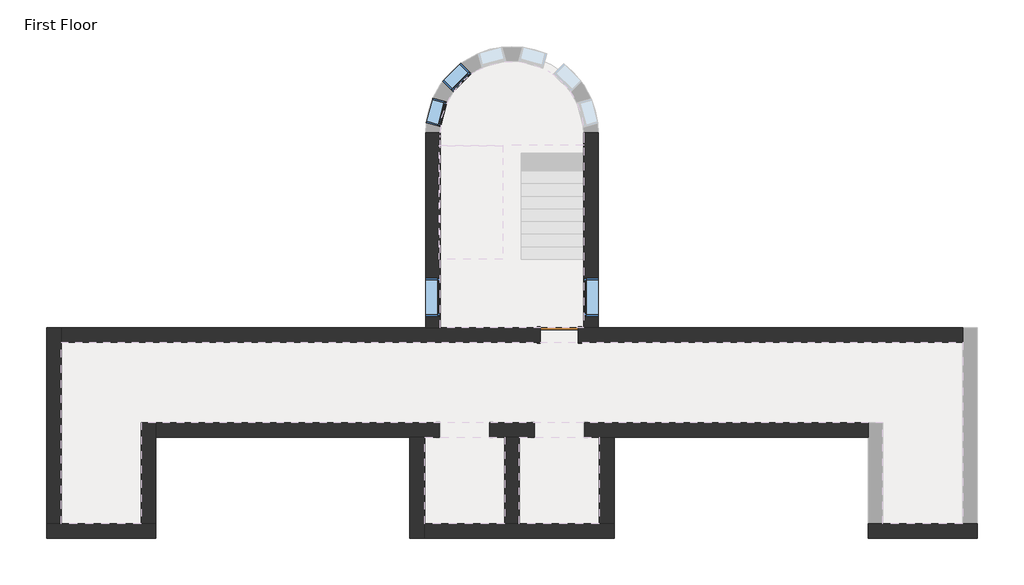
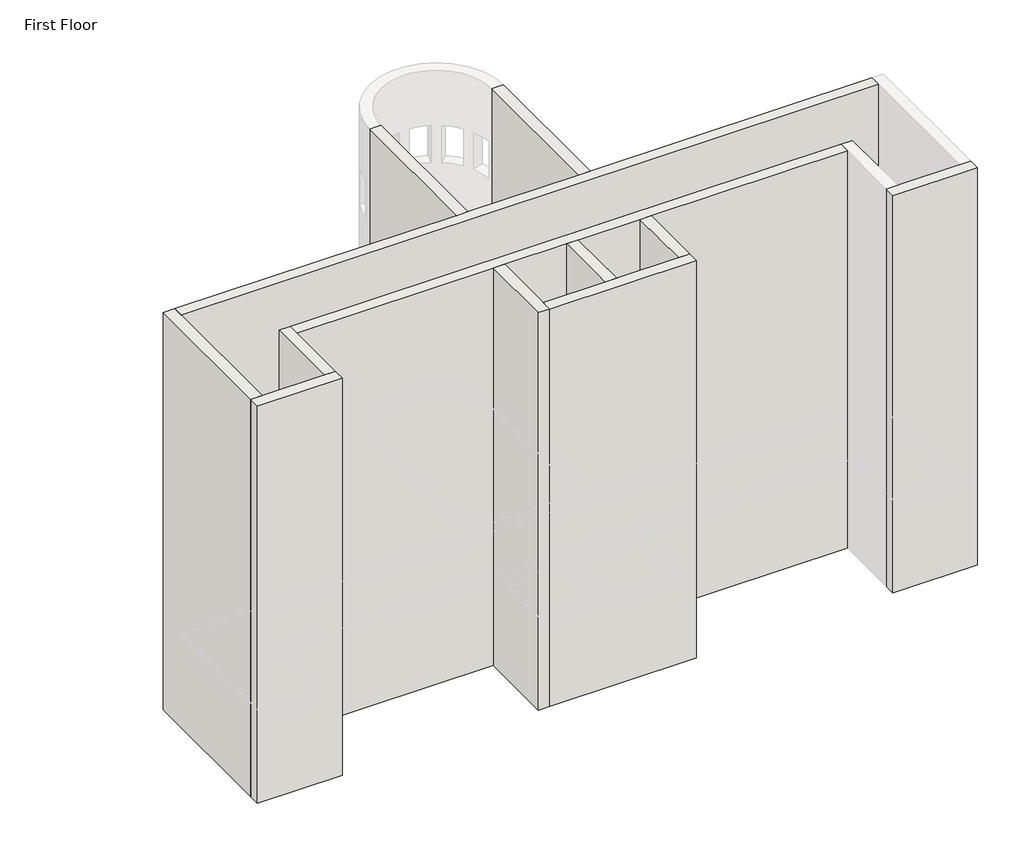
# One storey, part 1 of 3: 12 walls, 4 windows, 1 door.
"""IFC4 building model written with IfcOpenShell, lengths in millimetres."""

import ifcopenshell
import ifcopenshell.guid

model = None  # the IFC model being written
_history = None  # IfcOwnerHistory: only IFC2X3 demands one
_inside = {}  # id of a spatial element -> (the spatial element, [elements in it])
_under = {}  # id of a project, library or spatial element -> (it, [spatial elements below it])
_declared = {}  # id of a project -> (the project, [libraries it declares])
_typed = {}  # id of a type object -> (the type object, [elements of that type])
_made_of = {}  # id of a material, layer set ... -> (it, [elements and type objects made of it])


def new_model(schema):
    """Start an empty IFC model of exactly this schema.

    Asked for "IFC4X3", IfcOpenShell would pick the latest addendum, in which some entities
    have other attributes; the version numbers below select the first issue.
    IFC2X3 requires an IfcOwnerHistory on every rooted entity: one is made here for all.
    """
    global model, _history
    if schema == "IFC4X3":
        model = ifcopenshell.file(schema_version=(4, 3, 0, 0))
    else:
        model = ifcopenshell.file(schema=schema)
    _inside.clear()
    _under.clear()
    _declared.clear()
    _typed.clear()
    _made_of.clear()
    _history = None
    if model.schema == "IFC2X3":
        org = make("IfcOrganization", Name="unknown")
        user = make(
            "IfcPersonAndOrganization",
            ThePerson=make("IfcPerson", FamilyName="unknown"),
            TheOrganization=org,
        )
        app = make(
            "IfcApplication",
            ApplicationDeveloper=org,
            Version="unknown",
            ApplicationFullName="unknown",
            ApplicationIdentifier="unknown",
        )
        _history = make(
            "IfcOwnerHistory",
            OwningUser=user,
            OwningApplication=app,
            ChangeAction="ADDED",
            CreationDate=0,
        )
    return model


def make(cls, **values):
    """One entity of the class cls with the attributes given. An attribute that is None is left unset."""
    return model.create_entity(
        cls, **{name: value for name, value in values.items() if value is not None}
    )


def rooted(cls, **values):
    """An entity with a GlobalId (a new one), such as an element, a storey or a relation."""
    return make(cls, GlobalId=ifcopenshell.guid.new(), OwnerHistory=_history, **values)


def si_unit(unit_type, name, prefix=None):
    """IfcSIUnit, for example si_unit("LENGTHUNIT", "METRE", prefix="MILLI")."""
    return make("IfcSIUnit", UnitType=unit_type, Prefix=prefix, Name=name)


def assignment(units):
    """IfcUnitAssignment: the units of a project."""
    return None if units is None else make("IfcUnitAssignment", Units=units)


def point(xyz):
    """IfcCartesianPoint."""
    return None if xyz is None else make("IfcCartesianPoint", Coordinates=xyz)


def direction(xyz):
    """IfcDirection."""
    return None if xyz is None else make("IfcDirection", DirectionRatios=xyz)


def frame(location, z_axis=None, x_axis=None):
    """IfcAxis2Placement3D, a coordinate frame: its origin and axes. An axis left out is left unset."""
    return make(
        "IfcAxis2Placement3D",
        Location=point(location),
        Axis=direction(z_axis),
        RefDirection=direction(x_axis),
    )


def origin():
    """The frame at (0, 0, 0) with its axes left unset."""
    return frame((0.0, 0.0, 0.0))


def origin_with_axes():
    """The frame at (0, 0, 0) with the z axis (0, 0, 1) and the x axis (1, 0, 0) written out."""
    return frame((0.0, 0.0, 0.0), z_axis=(0.0, 0.0, 1.0), x_axis=(1.0, 0.0, 0.0))


def place(relative_to, where):
    """IfcLocalPlacement: puts the frame where relative to a parent placement (None: the world)."""
    return make(
        "IfcLocalPlacement", PlacementRelTo=relative_to, RelativePlacement=where
    )


def context(
    kind, dimensions, precision=None, world=None, true_north=None, identifier=None
):
    """IfcGeometricRepresentationContext, for example the 3D "Model" context."""
    return make(
        "IfcGeometricRepresentationContext",
        ContextIdentifier=identifier,
        ContextType=kind,
        CoordinateSpaceDimension=dimensions,
        Precision=precision,
        WorldCoordinateSystem=world,
        TrueNorth=true_north,
    )


def project(units=None, contexts=None):
    """IfcProject with its units and contexts."""
    return rooted(
        "IfcProject",
        Name="project",
        RepresentationContexts=contexts,
        UnitsInContext=assignment(units),
    )


def spatial(cls, under=None, at=None, **own):
    """A site, building, storey or space (cls), placed at a placement, below another one or the project."""
    s = rooted(cls, ObjectPlacement=at, **own)
    if under is not None:
        _under.setdefault(under.id(), (under, []))[1].append(s)
    return s


def polyline(points):
    """IfcPolyline through the points."""
    return make("IfcPolyline", Points=[point(p) for p in points])


def outline(outer, holes=None, kind="AREA"):
    """IfcArbitraryClosedProfileDef: a profile drawn as a closed curve; with holes, ...WithVoids."""
    if holes is None:
        return make("IfcArbitraryClosedProfileDef", ProfileType=kind, OuterCurve=outer)
    return make(
        "IfcArbitraryProfileDefWithVoids",
        ProfileType=kind,
        OuterCurve=outer,
        InnerCurves=holes,
    )


def extrude(swept, where, along, depth):
    """IfcExtrudedAreaSolid: the profile swept, set in the frame where, extruded along a direction by depth."""
    return make(
        "IfcExtrudedAreaSolid",
        SweptArea=swept,
        Position=where,
        ExtrudedDirection=direction(along),
        Depth=depth,
    )


def faces_of(points, faces, orient=None, outer=None):
    """IfcFace entities. A face is a list of loops; a loop is a list of indices into points, from 0.

    orient and outer hold one flag for each loop. By default every Orientation is true, the
    first loop of a face is its IfcFaceOuterBound and the others are IfcFaceBound.
    """
    made = []
    for i, loops in enumerate(faces):
        bounds = []
        for j, loop in enumerate(loops):
            is_outer = j == 0 if outer is None else outer[i][j]
            bounds.append(
                make(
                    "IfcFaceOuterBound" if is_outer else "IfcFaceBound",
                    Bound=make("IfcPolyLoop", Polygon=[points[k] for k in loop]),
                    Orientation=True if orient is None else orient[i][j],
                )
            )
        made.append(make("IfcFace", Bounds=bounds))
    return made


def faceted_brep(points, faces, orient=None, outer=None, voids=None):
    """IfcFacetedBrep: a solid bounded by flat faces; with voids (closed shells), ...WithVoids."""
    shared = [point(p) for p in points]
    hull = make("IfcClosedShell", CfsFaces=faces_of(shared, faces, orient, outer))
    if voids is None:
        return make("IfcFacetedBrep", Outer=hull)
    return make(
        "IfcFacetedBrepWithVoids",
        Outer=hull,
        Voids=[
            make(cls, CfsFaces=faces_of(shared, fs, o, b)) for cls, fs, o, b in voids
        ],
    )


def shape(context_of_items, identifier, shape_type, items):
    """IfcShapeRepresentation: the items that make up one representation, for example the "Body"."""
    return make(
        "IfcShapeRepresentation",
        ContextOfItems=context_of_items,
        RepresentationIdentifier=identifier,
        RepresentationType=shape_type,
        Items=items,
    )


def source(mapping_origin, context_of_items, identifier, shape_type, items):
    """IfcRepresentationMap: a shape defined once, which mapped items show again and again."""
    return make(
        "IfcRepresentationMap",
        MappingOrigin=mapping_origin,
        MappedRepresentation=shape(context_of_items, identifier, shape_type, items),
    )


def transform(
    local_origin,
    x_axis=None,
    y_axis=None,
    z_axis=None,
    scale=None,
    scale2=None,
    scale3=None,
    uniform=True,
):
    """IfcCartesianTransformationOperator3D, or its non-uniform kind. x_axis, y_axis, z_axis: its Axis1, 2, 3."""
    if uniform:
        return make(
            "IfcCartesianTransformationOperator3D",
            Axis1=direction(x_axis),
            Axis2=direction(y_axis),
            LocalOrigin=point(local_origin),
            Scale=scale,
            Axis3=direction(z_axis),
        )
    return make(
        "IfcCartesianTransformationOperator3DnonUniform",
        Axis1=direction(x_axis),
        Axis2=direction(y_axis),
        LocalOrigin=point(local_origin),
        Scale=scale,
        Axis3=direction(z_axis),
        Scale2=scale2,
        Scale3=scale3,
    )


def mapped(mapping_source, mapping_target):
    """IfcMappedItem: shows the shape of a source again, moved by a transform."""
    return make(
        "IfcMappedItem", MappingSource=mapping_source, MappingTarget=mapping_target
    )


def made_of(thing, what):
    """Note that an element or type object is made of a material, layer set ...; save() writes the relation."""
    if what is not None:
        _made_of.setdefault(what.id(), (what, []))[1].append(thing)
    return thing


def element(
    cls,
    number,
    at=None,
    inside=None,
    cuts=None,
    type_object=None,
    material=None,
    context=None,
    identifier="Body",
    shape_type=None,
    held_by="IfcProductDefinitionShape",
    body=None,
    shapes=None,
    **own,
):
    """One element of the class cls, such as IfcWall. Its Tag is "e" and its number.

    at: its placement. inside: the storey or other place that contains it. cuts: it is an
    opening in that element (IfcRelVoidsElement). A single representation is given by context,
    identifier, shape_type and body (its items); several are given by shapes. held_by: the class
    of the entity that holds the representations. save() writes the other relations.
    """
    e = rooted(cls, Tag="e%d" % number, ObjectPlacement=at, **own)
    if body is not None:
        shapes = [shape(context, identifier, shape_type, body)]
    if shapes is not None:
        e.Representation = make(held_by, Representations=shapes)
    if inside is not None:
        _inside.setdefault(inside.id(), (inside, []))[1].append(e)
    if cuts is not None:
        rooted(
            "IfcRelVoidsElement", RelatingBuildingElement=cuts, RelatedOpeningElement=e
        )
    if type_object is not None:
        _typed.setdefault(type_object.id(), (type_object, []))[1].append(e)
    return made_of(e, material)


def aggregate(whole, parts):
    """IfcRelAggregates: a whole, such as a stair, and the parts it consists of."""
    return rooted("IfcRelAggregates", RelatingObject=whole, RelatedObjects=parts)


def save(model, path):
    """Write the relations noted so far, then the file.

    IfcRelAggregates (storeys below a building ...), IfcRelContainedInSpatialStructure (elements
    in a storey), IfcRelDefinesByType, IfcRelAssociatesMaterial and IfcRelDeclares: one each for
    every whole, place, type object, material and project.
    """
    for whole, parts in _under.values():
        aggregate(whole, parts)
    for where, things in _inside.values():
        rooted(
            "IfcRelContainedInSpatialStructure",
            RelatedElements=things,
            RelatingStructure=where,
        )
    for kind, things in _typed.values():
        rooted("IfcRelDefinesByType", RelatedObjects=things, RelatingType=kind)
    for what, things in _made_of.values():
        rooted("IfcRelAssociatesMaterial", RelatedObjects=things, RelatingMaterial=what)
    for by, libraries in _declared.values():
        rooted("IfcRelDeclares", RelatingContext=by, RelatedDefinitions=libraries)
    model.write(path)


def door_632be17d(model_context):
    return source(origin(), model_context, "Body", "SweptSolid", [
        extrude(outline(polyline([(2209.8, -533.4), (0.0, -533.4), (0.0, -457.2), (2133.6, -457.2), (2133.6, 457.2), (0.0, 457.2), (0.0, 533.4), (2209.8, 533.4), (2209.8, -533.4)])), frame((0.0, 176.2125, 0.0), z_axis=(0.0, 1.0, 0.0), x_axis=(0.0, 0.0, 1.0)), (0.0, 0.0, 1.0), 25.4),
        extrude(outline(polyline([(2209.8, 533.4), (2209.8, -533.4), (0.0, -533.4), (0.0, -457.2), (2133.6, -457.2), (2133.6, 457.2), (0.0, 457.2), (0.0, 533.4), (2209.8, 533.4)])), frame((0.0, -201.6125, 0.0), z_axis=(0.0, 1.0, 0.0), x_axis=(0.0, 0.0, 1.0)), (0.0, 0.0, 1.0), 25.4),
        extrude(outline(polyline([(457.2, 125.4125), (-457.2, 125.4125), (-457.2, 176.2125), (457.2, 176.2125), (457.2, 125.4125)])), origin_with_axes(), (0.0, 0.0, 1.0), 2133.6),
    ])


def window_60baf983(model_context):
    return source(origin(), model_context, "Body", "SweptSolid", [
        extrude(outline(polyline([(203.2, 128.5875), (-279.4, 128.5875), (-279.4, 141.2875), (203.2, 141.2875), (203.2, 128.5875)])), frame((0.0, 0.0, 977.9), z_axis=(0.0, 0.0, 1.0), x_axis=(1.0, 0.0, 0.0)), (0.0, 0.0, 1.0), 1092.2),
        extrude(outline(polyline([(2114.55, -323.85), (933.45, -323.85), (933.45, 247.65), (2114.55, 247.65), (2114.55, -323.85)]), holes=[polyline([(2070.1, -279.4), (2070.1, 203.2), (977.9, 203.2), (977.9, -279.4), (2070.1, -279.4)])]), frame((0.0, 112.7125, 0.0), z_axis=(0.0, 1.0, 0.0), x_axis=(0.0, 0.0, 1.0)), (0.0, 0.0, 1.0), 44.45),
        extrude(outline(polyline([(2133.6, -342.9), (914.4, -342.9), (914.4, 266.7), (2133.6, 266.7), (2133.6, -342.9)]), holes=[polyline([(2101.85, -311.15), (2101.85, 234.95), (946.15, 234.95), (946.15, -311.15), (2101.85, -311.15)])]), frame((0.0, -176.2125, 0.0), z_axis=(0.0, 1.0, 0.0), x_axis=(0.0, 0.0, 1.0)), (0.0, 0.0, 1.0), 288.925),
        extrude(outline(polyline([(2133.6, 266.7), (2133.6, -342.9), (914.4, -342.9), (914.4, 266.7), (2133.6, 266.7)]), holes=[polyline([(2114.55, 247.65), (933.45, 247.65), (933.45, -323.85), (2114.55, -323.85), (2114.55, 247.65)])]), frame((0.0, 112.7125, 0.0), z_axis=(0.0, 1.0, 0.0), x_axis=(0.0, 0.0, 1.0)), (0.0, 0.0, 1.0), 63.5),
    ])


def window_15c49d37(model_context):
    return source(origin(), model_context, "Body", "SweptSolid", [
        extrude(outline(polyline([(355.6, 128.5875), (-431.8, 128.5875), (-431.8, 141.2875), (355.6, 141.2875), (355.6, 128.5875)])), frame((0.0, 0.0, 977.9), z_axis=(0.0, 0.0, 1.0), x_axis=(1.0, 0.0, 0.0)), (0.0, 0.0, 1.0), 1092.2),
        extrude(outline(polyline([(2114.55, -476.25), (933.45, -476.25), (933.45, 400.05), (2114.55, 400.05), (2114.55, -476.25)]), holes=[polyline([(2070.1, -431.8), (2070.1, 355.6), (977.9, 355.6), (977.9, -431.8), (2070.1, -431.8)])]), frame((0.0, 112.7125, 0.0), z_axis=(0.0, 1.0, 0.0), x_axis=(0.0, 0.0, 1.0)), (0.0, 0.0, 1.0), 44.45),
        extrude(outline(polyline([(2133.6, -495.3), (914.4, -495.3), (914.4, 419.1), (2133.6, 419.1), (2133.6, -495.3)]), holes=[polyline([(2101.85, -463.55), (2101.85, 387.35), (946.15, 387.35), (946.15, -463.55), (2101.85, -463.55)])]), frame((0.0, -176.2125, 0.0), z_axis=(0.0, 1.0, 0.0), x_axis=(0.0, 0.0, 1.0)), (0.0, 0.0, 1.0), 288.925),
        extrude(outline(polyline([(2133.6, 419.1), (2133.6, -495.3), (914.4, -495.3), (914.4, 419.1), (2133.6, 419.1)]), holes=[polyline([(2114.55, 400.05), (933.45, 400.05), (933.45, -476.25), (2114.55, -476.25), (2114.55, 400.05)])]), frame((0.0, 112.7125, 0.0), z_axis=(0.0, 1.0, 0.0), x_axis=(0.0, 0.0, 1.0)), (0.0, 0.0, 1.0), 63.5),
    ])


model = new_model("IFC4")

# Units and contexts
model_context = context("Model", 3, world=origin())
ifc_project = project(units=[si_unit("LENGTHUNIT", "METRE", prefix="MILLI")], contexts=[model_context])

# Site, building, storey
site = spatial("IfcSite", under=ifc_project)
building = spatial("IfcBuilding", under=site)
storey = spatial("IfcBuildingStorey", under=building, Name="First Floor", Elevation=0.0)

# Door
placement = place(None, origin())
door_shape = door_632be17d(model_context)
element("IfcDoor", 1, ObjectType="Single-Flush : 36\" x 84\"", at=placement, inside=storey, context=model_context, shape_type="MappedRepresentation", body=[
    mapped(door_shape, transform((-5102.6149687, 4715.9758812, 0.0), x_axis=(1.0, 0.0, 0.0), y_axis=(0.0, 1.0, 0.0), z_axis=(0.0, 0.0, 1.0))),
])

# Walls
element("IfcWall", 2, ObjectType="Exterior - Brick on Mtl. Stud", at=placement, inside=storey, context=model_context, shape_type="Brep", body=[
    faceted_brep([(-8707.8274687, 2253.7633812, 0.0), (-8707.8274687, -184.6366188, 0.0), (-8707.8274687, -184.6366188, 13106.4), (-8707.8274687, 2253.7633812, 13106.4), (-8355.4024687, 2253.7633812, 0.0), (-8355.4024687, 2253.7633812, 13106.4), (-8355.4024687, 167.7883812, 13106.4), (-8355.4024687, -184.6366188, 13106.4), (-8355.4024687, -184.6366188, 0.0), (-8355.4024687, 167.7883812, 0.0)], [[[0, 1, 2, 3]], [[4, 5, 6, 7, 8, 9]], [[1, 0, 4, 9, 8]], [[3, 2, 7, 6, 5]], [[2, 1, 8, 7]], [[0, 3, 5, 4]]]),
])
element("IfcWall", 3, ObjectType="Exterior - Brick on Mtl. Stud", at=placement, inside=storey, context=model_context, shape_type="Brep", body=[
    faceted_brep([(-8355.4024687, -184.6366188, 0.0), (-3783.4024687, -184.6366188, 0.0), (-3783.4024687, -184.6366188, 13106.4), (-8355.4024687, -184.6366188, 13106.4), (-8355.4024687, 167.7883812, 0.0), (-8355.4024687, 167.7883812, 13106.4), (-6421.8274687, 167.7883812, 13106.4), (-6069.4024687, 167.7883812, 13106.4), (-4135.8274687, 167.7883812, 13106.4), (-3783.4024687, 167.7883812, 13106.4), (-3783.4024687, 167.7883812, 0.0), (-4135.8274687, 167.7883812, 0.0), (-6069.4024687, 167.7883812, 0.0), (-6421.8274687, 167.7883812, 0.0)], [[[0, 1, 2, 3]], [[4, 5, 6, 7, 8, 9, 10, 11, 12, 13]], [[1, 0, 4, 13, 12, 11, 10]], [[3, 2, 9, 8, 7, 6, 5]], [[2, 1, 10, 9]], [[0, 3, 5, 4]]]),
])
element("IfcWall", 4, ObjectType="Exterior - Brick on Mtl. Stud", at=placement, inside=storey, context=model_context, shape_type="SweptSolid", body=[
    extrude(outline(polyline([(-3783.4024687, 2253.7633812), (-3783.4024687, 167.7883812), (-4135.8274687, 167.7883812), (-4135.8274687, 2253.7633812), (-3783.4024687, 2253.7633812)])), origin_with_axes(), (0.0, 0.0, 1.0), 13106.4),
])
element("IfcWall", 5, ObjectType="Exterior - Brick on Mtl. Stud", at=placement, inside=storey, context=model_context, shape_type="Brep", body=[
    faceted_brep([(-14832.4024687, 2606.1883812, 0.0), (-7998.2149687, 2606.1883812, 0.0), (-7998.2149687, 2253.7633812, 0.0), (-8355.4024687, 2253.7633812, 0.0), (-8707.8274687, 2253.7633812, 0.0), (-14832.4024687, 2253.7633812, 0.0), (-6779.0149687, 2606.1883812, 0.0), (-5712.2149687, 2606.1883812, 0.0), (-5712.2149687, 2253.7633812, 0.0), (-6069.4024687, 2253.7633812, 0.0), (-6421.8274687, 2253.7633812, 0.0), (-6779.0149687, 2253.7633812, 0.0), (-4493.0149687, 2606.1883812, 0.0), (2341.1725313, 2606.1883812, 0.0), (2341.1725313, 2253.7633812, 0.0), (-3783.4024687, 2253.7633812, 0.0), (-4135.8274687, 2253.7633812, 0.0), (-4493.0149687, 2253.7633812, 0.0), (-14832.4024687, 2253.7633812, 13106.4), (-8707.8274687, 2253.7633812, 13106.4), (-8355.4024687, 2253.7633812, 13106.4), (-6421.8274687, 2253.7633812, 13106.4), (-6069.4024687, 2253.7633812, 13106.4), (-4135.8274687, 2253.7633812, 13106.4), (-3783.4024687, 2253.7633812, 13106.4), (2341.1725313, 2253.7633812, 13106.4), (2341.1725313, 2606.1883812, 13106.4), (-14832.4024687, 2606.1883812, 13106.4), (-5712.2149687, 2253.7633812, 2133.6), (-4493.0149687, 2253.7633812, 2133.6), (-7998.2149687, 2253.7633812, 2133.6), (-6779.0149687, 2253.7633812, 2133.6), (-4493.0149687, 2253.7633812, 8229.6), (-4493.0149687, 2253.7633812, 6096.0), (-5712.2149687, 2253.7633812, 6096.0), (-5712.2149687, 2253.7633812, 8229.6), (-6779.0149687, 2253.7633812, 8229.6), (-6779.0149687, 2253.7633812, 6096.0), (-7998.2149687, 2253.7633812, 6096.0), (-7998.2149687, 2253.7633812, 8229.6), (-4493.0149687, 2253.7633812, 5181.6), (-4493.0149687, 2253.7633812, 3048.0), (-5712.2149687, 2253.7633812, 3048.0), (-5712.2149687, 2253.7633812, 5181.6), (-6779.0149687, 2253.7633812, 5181.6), (-6779.0149687, 2253.7633812, 3048.0), (-7998.2149687, 2253.7633812, 3048.0), (-7998.2149687, 2253.7633812, 5181.6), (-4493.0149687, 2253.7633812, 11277.6), (-4493.0149687, 2253.7633812, 9144.0), (-5712.2149687, 2253.7633812, 9144.0), (-5712.2149687, 2253.7633812, 11277.6), (-6779.0149687, 2253.7633812, 11277.6), (-6779.0149687, 2253.7633812, 9144.0), (-7998.2149687, 2253.7633812, 9144.0), (-7998.2149687, 2253.7633812, 11277.6), (-5712.2149687, 2606.1883812, 2133.6), (-6779.0149687, 2606.1883812, 2133.6), (-7998.2149687, 2606.1883812, 2133.6), (-4493.0149687, 2606.1883812, 2133.6), (-4493.0149687, 2606.1883812, 8229.6), (-5712.2149687, 2606.1883812, 8229.6), (-5712.2149687, 2606.1883812, 6096.0), (-4493.0149687, 2606.1883812, 6096.0), (-6779.0149687, 2606.1883812, 8229.6), (-7998.2149687, 2606.1883812, 8229.6), (-7998.2149687, 2606.1883812, 6096.0), (-6779.0149687, 2606.1883812, 6096.0), (-4493.0149687, 2606.1883812, 5181.6), (-5712.2149687, 2606.1883812, 5181.6), (-5712.2149687, 2606.1883812, 3048.0), (-4493.0149687, 2606.1883812, 3048.0), (-6779.0149687, 2606.1883812, 5181.6), (-7998.2149687, 2606.1883812, 5181.6), (-7998.2149687, 2606.1883812, 3048.0), (-6779.0149687, 2606.1883812, 3048.0), (-4493.0149687, 2606.1883812, 11277.6), (-5712.2149687, 2606.1883812, 11277.6), (-5712.2149687, 2606.1883812, 9144.0), (-4493.0149687, 2606.1883812, 9144.0), (-6779.0149687, 2606.1883812, 11277.6), (-7998.2149687, 2606.1883812, 11277.6), (-7998.2149687, 2606.1883812, 9144.0), (-6779.0149687, 2606.1883812, 9144.0)], [[[0, 1, 2, 3, 4, 5]], [[6, 7, 8, 9, 10, 11]], [[12, 13, 14, 15, 16, 17]], [[18, 19, 20, 21, 22, 23, 24, 25, 26, 27]], [[11, 10, 9, 8, 28, 29, 17, 16, 15, 14, 25, 24, 23, 22, 21, 20, 19, 18, 5, 4, 3, 2, 30, 31], [32, 33, 34, 35], [36, 37, 38, 39], [40, 41, 42, 43], [44, 45, 46, 47], [48, 49, 50, 51], [52, 53, 54, 55]], [[56, 7, 6, 57, 58, 1, 0, 27, 26, 13, 12, 59], [60, 61, 62, 63], [64, 65, 66, 67], [68, 69, 70, 71], [72, 73, 74, 75], [76, 77, 78, 79], [80, 81, 82, 83]], [[25, 14, 13, 26]], [[5, 18, 27, 0]], [[11, 31, 57, 6]], [[30, 2, 1, 58]], [[31, 30, 58, 57]], [[17, 29, 59, 12]], [[28, 8, 7, 56]], [[29, 28, 56, 59]], [[33, 32, 60, 63]], [[34, 33, 63, 62]], [[35, 34, 62, 61]], [[32, 35, 61, 60]], [[37, 36, 64, 67]], [[38, 37, 67, 66]], [[39, 38, 66, 65]], [[36, 39, 65, 64]], [[41, 40, 68, 71]], [[42, 41, 71, 70]], [[43, 42, 70, 69]], [[40, 43, 69, 68]], [[45, 44, 72, 75]], [[46, 45, 75, 74]], [[47, 46, 74, 73]], [[44, 47, 73, 72]], [[49, 48, 76, 79]], [[50, 49, 79, 78]], [[51, 50, 78, 77]], [[48, 51, 77, 76]], [[53, 52, 80, 83]], [[54, 53, 83, 82]], [[55, 54, 82, 81]], [[52, 55, 81, 80]]]),
])
element("IfcWall", 6, ObjectType="Exterior - Brick on Mtl. Stud", at=placement, inside=storey, context=model_context, shape_type="SweptSolid", body=[
    extrude(outline(polyline([(4892.1883812, 0.0), (4892.1883812, 13106.4), (9592.7758812, 13106.4), (9592.7758812, 0.0), (4892.1883812, 0.0)]), holes=[polyline([(5173.1758812, 2133.6), (5173.1758812, 914.4), (6087.5758812, 914.4), (6087.5758812, 2133.6), (5173.1758812, 2133.6)]), polyline([(5173.1758812, 11277.6), (5173.1758812, 10058.4), (6087.5758812, 10058.4), (6087.5758812, 11277.6), (5173.1758812, 11277.6)]), polyline([(5173.1758812, 5181.6), (5173.1758812, 3962.4), (6087.5758812, 3962.4), (6087.5758812, 5181.6), (5173.1758812, 5181.6)]), polyline([(5173.1758812, 8229.6), (5173.1758812, 7010.4), (6087.5758812, 7010.4), (6087.5758812, 8229.6), (5173.1758812, 8229.6)])]), frame((-8326.8274687, 0.0, 0.0), z_axis=(1.0, 0.0, 0.0), x_axis=(0.0, 1.0, 0.0)), (0.0, 0.0, 1.0), 352.425),
])
element("IfcWall", 7, ObjectType="Exterior - Brick on Mtl. Stud", at=placement, inside=storey, context=model_context, shape_type="Brep", body=[
    faceted_brep([(4627.1725313, 4539.7633812, 0.0), (-4645.4149687, 4539.7633812, 0.0), (-4645.4149687, 4892.1883812, 0.0), (-4516.8274687, 4892.1883812, 0.0), (-4164.4024687, 4892.1883812, 0.0), (4627.1725313, 4892.1883812, 0.0), (-5559.8149687, 4539.7633812, 0.0), (-17118.4024687, 4539.7633812, 0.0), (-17118.4024687, 4892.1883812, 0.0), (-8326.8274687, 4892.1883812, 0.0), (-7974.4024687, 4892.1883812, 0.0), (-5559.8149687, 4892.1883812, 0.0), (4627.1725313, 4892.1883812, 13106.4), (-4164.4024687, 4892.1883812, 13106.4), (-4516.8274687, 4892.1883812, 13106.4), (-7974.4024687, 4892.1883812, 13106.4), (-8326.8274687, 4892.1883812, 13106.4), (-17118.4024687, 4892.1883812, 13106.4), (-17118.4024687, 4539.7633812, 13106.4), (4627.1725313, 4539.7633812, 13106.4), (-4645.4149687, 4892.1883812, 2133.6), (-5559.8149687, 4892.1883812, 2133.6), (-5559.8149687, 4892.1883812, 6096.0), (-4645.4149687, 4892.1883812, 6096.0), (-4645.4149687, 4892.1883812, 8229.6), (-5559.8149687, 4892.1883812, 8229.6), (-5559.8149687, 4892.1883812, 3048.0), (-4645.4149687, 4892.1883812, 3048.0), (-4645.4149687, 4892.1883812, 5181.6), (-5559.8149687, 4892.1883812, 5181.6), (-5559.8149687, 4892.1883812, 9144.0), (-4645.4149687, 4892.1883812, 9144.0), (-4645.4149687, 4892.1883812, 11277.6), (-5559.8149687, 4892.1883812, 11277.6), (-4645.4149687, 4539.7633812, 2133.6), (-5559.8149687, 4539.7633812, 2133.6), (-5559.8149687, 4539.7633812, 6096.0), (-5559.8149687, 4539.7633812, 8229.6), (-4645.4149687, 4539.7633812, 8229.6), (-4645.4149687, 4539.7633812, 6096.0), (-5559.8149687, 4539.7633812, 3048.0), (-5559.8149687, 4539.7633812, 5181.6), (-4645.4149687, 4539.7633812, 5181.6), (-4645.4149687, 4539.7633812, 3048.0), (-5559.8149687, 4539.7633812, 9144.0), (-5559.8149687, 4539.7633812, 11277.6), (-4645.4149687, 4539.7633812, 11277.6), (-4645.4149687, 4539.7633812, 9144.0)], [[[0, 1, 2, 3, 4, 5]], [[6, 7, 8, 9, 10, 11]], [[12, 13, 14, 15, 16, 17, 18, 19]], [[5, 4, 3, 2, 20, 21, 11, 10, 9, 8, 17, 16, 15, 14, 13, 12], [22, 23, 24, 25], [26, 27, 28, 29], [30, 31, 32, 33]], [[34, 1, 0, 19, 18, 7, 6, 35], [36, 37, 38, 39], [40, 41, 42, 43], [44, 45, 46, 47]], [[5, 12, 19, 0]], [[17, 8, 7, 18]], [[20, 2, 1, 34]], [[21, 20, 34, 35]], [[11, 21, 35, 6]], [[23, 22, 36, 39]], [[24, 23, 39, 38]], [[25, 24, 38, 37]], [[22, 25, 37, 36]], [[27, 26, 40, 43]], [[28, 27, 43, 42]], [[29, 28, 42, 41]], [[26, 29, 41, 40]], [[31, 30, 44, 47]], [[32, 31, 47, 46]], [[33, 32, 46, 45]], [[30, 33, 45, 44]]]),
])
element("IfcWall", 8, ObjectType="Exterior - Brick on Mtl. Stud", at=placement, inside=storey, context=model_context, shape_type="SweptSolid", body=[
    extrude(outline(polyline([(4892.1883812, 0.0), (4892.1883812, 13106.4), (9592.7758812, 13106.4), (9592.7758812, 0.0), (4892.1883812, 0.0)]), holes=[polyline([(6087.5758812, 2133.6), (5173.1758812, 2133.6), (5173.1758812, 914.4), (6087.5758812, 914.4), (6087.5758812, 2133.6)]), polyline([(6087.5758812, 11277.6), (5173.1758812, 11277.6), (5173.1758812, 10058.4), (6087.5758812, 10058.4), (6087.5758812, 11277.6)]), polyline([(6087.5758812, 5181.6), (5173.1758812, 5181.6), (5173.1758812, 3962.4), (6087.5758812, 3962.4), (6087.5758812, 5181.6)]), polyline([(6087.5758812, 8229.6), (5173.1758812, 8229.6), (5173.1758812, 7010.4), (6087.5758812, 7010.4), (6087.5758812, 8229.6)])]), frame((-4516.8274687, 0.0, 0.0), z_axis=(1.0, 0.0, 0.0), x_axis=(0.0, 1.0, 0.0)), (0.0, 0.0, 1.0), 352.425),
])
element("IfcWall", 9, ObjectType="Exterior - Brick on Mtl. Stud", at=placement, inside=storey, context=model_context, shape_type="SweptSolid", body=[
    extrude(outline(polyline([(-6069.4024687, 2253.7633812), (-6069.4024687, 167.7883812), (-6421.8274687, 167.7883812), (-6421.8274687, 2253.7633812), (-6069.4024687, 2253.7633812)])), origin_with_axes(), (0.0, 0.0, 1.0), 13106.4),
])
element("IfcWall", 10, ObjectType="Exterior - Brick on Mtl. Stud", at=placement, inside=storey, context=model_context, shape_type="Brep", body=[
    faceted_brep([(4979.5975313, 167.7883812, 0.0), (4627.1725313, 167.7883812, 0.0), (2693.5975313, 167.7883812, 0.0), (2341.1725313, 167.7883812, 0.0), (2341.1725313, 167.7883812, 13106.4), (2693.5975313, 167.7883812, 13106.4), (4627.1725313, 167.7883812, 13106.4), (4979.5975313, 167.7883812, 13106.4), (4979.5975313, -184.6366188, 0.0), (4979.5975313, -184.6366188, 13106.4), (2341.1725313, -184.6366188, 13106.4), (2341.1725313, -184.6366188, 0.0)], [[[0, 1, 2, 3, 4, 5, 6, 7]], [[8, 9, 10, 11]], [[3, 2, 1, 0, 8, 11]], [[7, 6, 5, 4, 10, 9]], [[4, 3, 11, 10]], [[0, 7, 9, 8]]]),
])
element("IfcWall", 11, ObjectType="Exterior - Brick on Mtl. Stud", at=placement, inside=storey, context=model_context, shape_type="Brep", body=[
    faceted_brep([(-17470.8274687, -184.6366188, 0.0), (-14832.4024687, -184.6366188, 0.0), (-14832.4024687, -184.6366188, 13106.4), (-17470.8274687, -184.6366188, 13106.4), (-17470.8274687, 167.7883812, 0.0), (-17470.8274687, 167.7883812, 13106.4), (-17118.4024687, 167.7883812, 13106.4), (-15184.8274687, 167.7883812, 13106.4), (-14832.4024687, 167.7883812, 13106.4), (-14832.4024687, 167.7883812, 0.0), (-15184.8274687, 167.7883812, 0.0), (-17118.4024687, 167.7883812, 0.0)], [[[0, 1, 2, 3]], [[4, 5, 6, 7, 8, 9, 10, 11]], [[1, 0, 4, 11, 10, 9]], [[3, 2, 8, 7, 6, 5]], [[2, 1, 9, 8]], [[0, 3, 5, 4]]]),
])
element("IfcWall", 12, ObjectType="Exterior - Brick on Mtl. Stud", at=placement, inside=storey, context=model_context, shape_type="Brep", body=[
    faceted_brep([(-15184.8274687, 2606.1883812, 0.0), (-15184.8274687, 167.7883812, 0.0), (-15184.8274687, 167.7883812, 13106.4), (-15184.8274687, 2606.1883812, 13106.4), (-14832.4024687, 2606.1883812, 0.0), (-14832.4024687, 2606.1883812, 13106.4), (-14832.4024687, 2253.7633812, 13106.4), (-14832.4024687, 167.7883812, 13106.4), (-14832.4024687, 167.7883812, 0.0), (-14832.4024687, 2253.7633812, 0.0)], [[[0, 1, 2, 3]], [[4, 5, 6, 7, 8, 9]], [[1, 0, 4, 9, 8]], [[3, 2, 7, 6, 5]], [[0, 3, 5, 4]], [[2, 1, 8, 7]]]),
])
element("IfcWall", 13, ObjectType="Exterior - Brick on Mtl. Stud", at=placement, inside=storey, context=model_context, shape_type="Brep", body=[
    faceted_brep([(-17118.4024687, 167.7883812, 0.0), (-17118.4024687, 4539.7633812, 0.0), (-17118.4024687, 4892.1883812, 0.0), (-17118.4024687, 4892.1883812, 13106.4), (-17118.4024687, 4539.7633812, 13106.4), (-17118.4024687, 167.7883812, 13106.4), (-17470.8274687, 167.7883812, 0.0), (-17470.8274687, 167.7883812, 13106.4), (-17470.8274687, 4892.1883812, 13106.4), (-17470.8274687, 4892.1883812, 0.0)], [[[0, 1, 2, 3, 4, 5]], [[6, 7, 8, 9]], [[2, 1, 0, 6, 9]], [[5, 4, 3, 8, 7]], [[3, 2, 9, 8]], [[0, 5, 7, 6]]]),
])

# Windows
window_shape = window_60baf983(model_context)
element("IfcWindow", 14, ObjectType="Fixed : 24\" x 48\"", at=placement, inside=storey, context=model_context, shape_type="MappedRepresentation", body=[
    mapped(window_shape, transform((-8072.5076754, 10048.7859441, 0.0), x_axis=(-0.2617614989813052, -0.9651325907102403, 0.0), y_axis=(0.9651325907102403, -0.2617614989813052, 0.0), z_axis=(0.0, 0.0, 1.0))),
])
element("IfcWindow", 15, ObjectType="Fixed : 24\" x 48\"", at=placement, inside=storey, context=model_context, shape_type="MappedRepresentation", body=[
    mapped(window_shape, transform((-7599.7454312, 10901.1385333, 0.0), x_axis=(-0.7092584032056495, -0.7049485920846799, 0.0), y_axis=(0.7049485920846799, -0.7092584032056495, 0.0), z_axis=(0.0, 0.0, 1.0))),
])
window_2_shape = window_15c49d37(model_context)
element("IfcWindow", 16, ObjectType="Fixed : 36\" x 48\"", at=placement, inside=storey, context=model_context, shape_type="MappedRepresentation", body=[
    mapped(window_2_shape, transform((-8150.6149687, 5592.2758812, 0.0), x_axis=(0.0, -1.0, 0.0), y_axis=(1.0, 0.0, 0.0), z_axis=(0.0, 0.0, 1.0))),
])
element("IfcWindow", 17, ObjectType="Fixed : 36\" x 48\"", at=placement, inside=storey, context=model_context, shape_type="MappedRepresentation", body=[
    mapped(window_2_shape, transform((-4340.6149687, 5668.4758812, 0.0), x_axis=(0.0, 1.0, 0.0), y_axis=(-1.0, 0.0, 0.0), z_axis=(0.0, 0.0, 1.0))),
])

save(model, "model.ifc")
